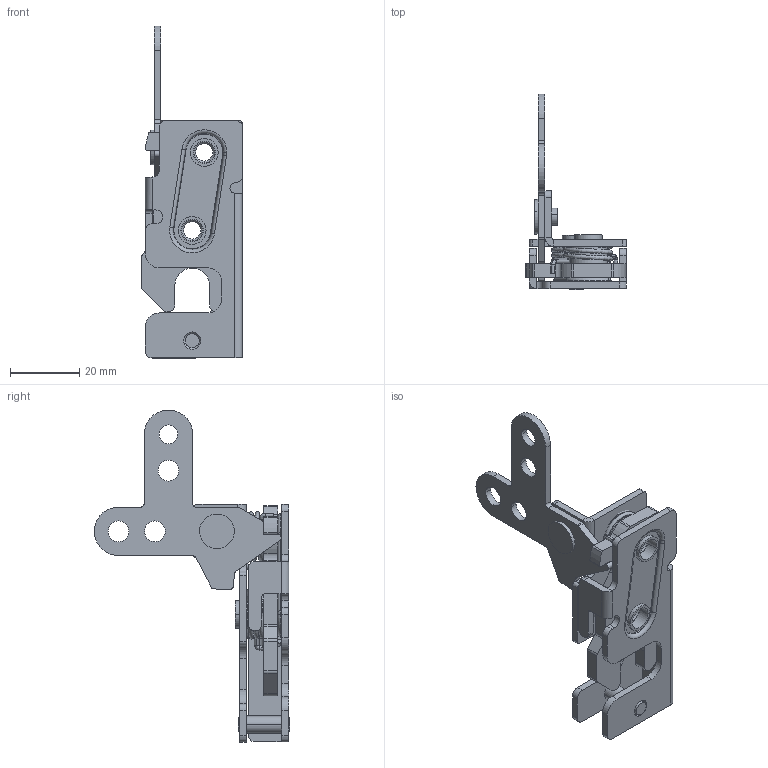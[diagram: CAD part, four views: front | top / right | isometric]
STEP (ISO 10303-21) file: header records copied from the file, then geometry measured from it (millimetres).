
FILE_DESCRIPTION (( 'STEP AP203' ), '1' );
FILE_NAME ('DK618F3D000009.STEP', '2016-07-18T05:00:39', ( 'master' ), ( 'Microsoft' ), 'SwSTEP 2.0', 'SolidWorks 2014', '' );
FILE_SCHEMA (( 'CONFIG_CONTROL_DESIGN' ));
Length unit declared in the file: millimetre
Products named in the file (11): 8SJ.DK618-6-Z.0220菁啣; 8SJ.DK618-6.0581穩隊2; 8SJ.DK618-6.0170結啣; 8SJ.DK618-8.0340嶺裝; 8SJ.DK618-1-Z.0720扭簧1（安装）; DK618F3D000009; 8SJ.DK618-1-Z.0720扭簧2（安装）; 8SJ.DK618-6.0570种赽; 8SJ.DK618-6.0580穩隊; 8SJ.DK618-6-Z.0200裔啣; 8SJ.DK618-6.0240坶啣
Assembly tree (11 placements, depth 2):
  DK618F3D000009
    8SJ.DK618-6-Z.0200裔啣
    8SJ.DK618-6-Z.0220菁啣
    8SJ.DK618-6.0170結啣
    8SJ.DK618-1-Z.0720扭簧1（安装）
    8SJ.DK618-1-Z.0720扭簧2（安装）
    8SJ.DK618-6.0570种赽
    8SJ.DK618-6.0580穩隊  x2
    8SJ.DK618-6.0240坶啣
    8SJ.DK618-6.0581穩隊2
    8SJ.DK618-8.0340嶺裝
Bounding box: 29.1 x 56.4 x 95.75 mm (x, y, z)
Volume: 14807.9 mm3; surface area: 17523.8 mm2
Topology: 11 solids, 11 shells, 343 faces, 857 edges, 550 vertices
Faces by surface type: cylinder 183, plane 109, bspline 23, cone 14, torus 14
Entity records: 32267 total; most frequent: CARTESIAN_POINT 23120, DIRECTION 1791, ORIENTED_EDGE 1610, EDGE_CURVE 805, AXIS2_PLACEMENT_3D 706, VERTEX_POINT 518, CIRCLE 397, LINE 379
